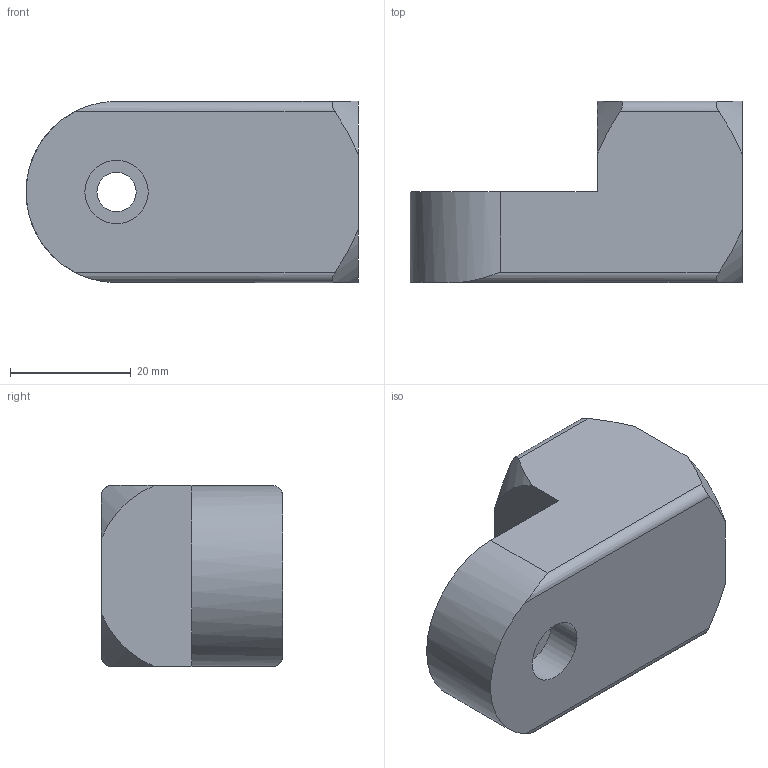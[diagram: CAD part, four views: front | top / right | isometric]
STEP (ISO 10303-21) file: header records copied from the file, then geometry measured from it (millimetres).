
FILE_DESCRIPTION( ( 'STEP AP203' ), '1' );
FILE_NAME( 'C:/Temp/Ganter_Step_05_03_2020/data/3_7/gn_484/Attachment clamp mounting GN 484-M12-30-MT.stp', '2020-03-12T14:46:59', ( 'License CC BY-ND 4.0' ), ( 'CADENAS' ), ' ', 'PARTsolutions', ' ' );
FILE_SCHEMA( ( 'CONFIG_CONTROL_DESIGN' ) );
Length unit declared in the file: millimetre
Products named in the file (1): _Attachment clamp mounting GN 484-M12-30-MT
Bounding box: 55 x 30 x 30 mm (x, y, z)
Volume: 30944.1 mm3; surface area: 8193.3 mm2
Topology: 1 solids, 1 shells, 38 faces, 90 edges, 57 vertices
Faces by surface type: cone 15, cylinder 13, plane 10
Full cylindrical faces by diameter (mm): 3.242 x4, 6.5 x1, 10 x1, 10.106 x1, 10.5 x1
Entity records: 1178 total; most frequent: CARTESIAN_POINT 349, DIRECTION 156, ORIENTED_EDGE 138, EDGE_CURVE 69, AXIS2_PLACEMENT_3D 68, EDGE_LOOP 60, VERTEX_POINT 57, FACE_OUTER_BOUND 46
